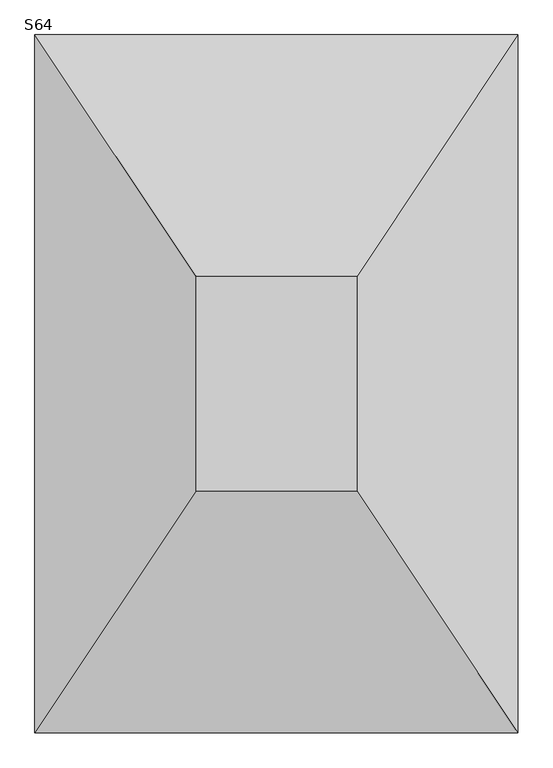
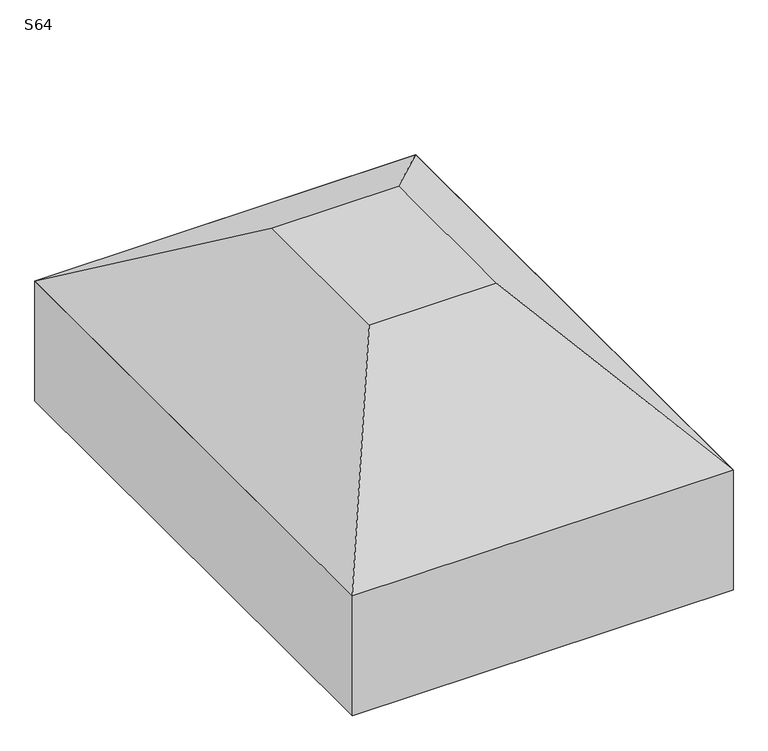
"""IFC4 building model written with IfcOpenShell, lengths in millimetres: fastener geometry, TQS - Sapata : S64."""

from ifc_helpers import new_model, si_unit, frame, origin, place, context, project, spatial, polyline, outline, extrude, faceted_brep, source, transform, mapped, element, save


def s64_ef9f5a06(model_context):
    return source(origin(), model_context, "Body", "SolidModel", [
        faceted_brep([(-50.0, 0.0, 0.0), (-350.0, 0.0, 0.0), (-350.0, -400.0, 0.0), (-50.0, -400.0, 0.0), (250.0, 450.0, -300.0), (250.0, -850.0, -300.0), (-650.0, -850.0, -300.0), (-650.0, 450.0, -300.0)], [[[0, 1, 2, 3]], [[4, 5, 6, 7]], [[4, 7, 1, 0]], [[7, 6, 2, 1]], [[6, 5, 3, 2]], [[5, 4, 0, 3]]]),
        extrude(outline(polyline([(250.0, 450.0), (250.0, -850.0), (-650.0, -850.0), (-650.0, 450.0), (250.0, 450.0)])), frame((0.0, 0.0, -600.0), z_axis=(0.0, 0.0, 1.0), x_axis=(1.0, 0.0, 0.0)), (0.0, 0.0, 1.0), 300.0),
    ])


if __name__ == "__main__":
    model = new_model("IFC4")
    model_context = context("Model", 3, world=origin())
    ifc_project = project(units=[si_unit("LENGTHUNIT", "METRE", prefix="MILLI")], contexts=[model_context])
    site = spatial("IfcSite", under=ifc_project)
    building = spatial("IfcBuilding", under=site)
    placement = place(None, origin())
    s64_shape = s64_ef9f5a06(model_context)
    element("IfcFastener", 1, ObjectType="TQS - Sapata : S64", at=placement, inside=building, context=model_context, shape_type="MappedRepresentation", body=[
        mapped(s64_shape, transform((0.0, 0.0, 0.0), x_axis=(1.0, 0.0, 0.0), y_axis=(0.0, 1.0, 0.0), z_axis=(0.0, 0.0, 1.0))),
    ])
    save(model, "model.ifc")
